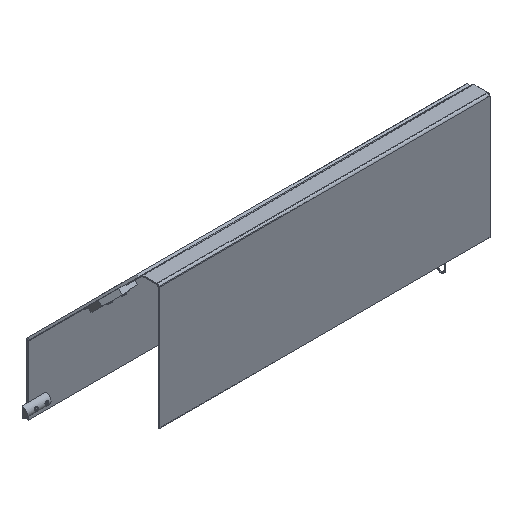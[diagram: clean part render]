
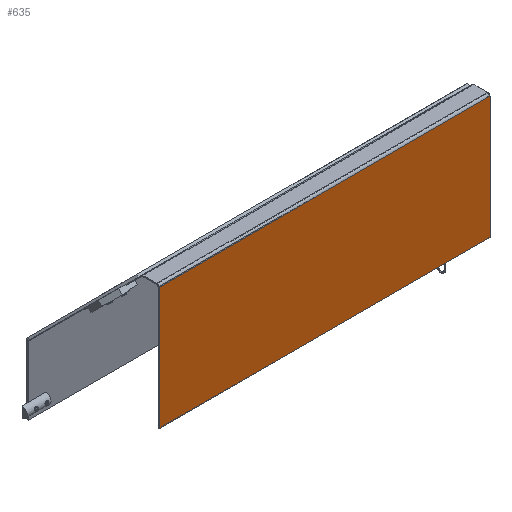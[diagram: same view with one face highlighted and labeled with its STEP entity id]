
A CAD part, isometric view. The second image highlights one B-rep face of the part: STEP entity #635.
In plain terms, the highlighted planar face has unit normal (0, -1, 0).
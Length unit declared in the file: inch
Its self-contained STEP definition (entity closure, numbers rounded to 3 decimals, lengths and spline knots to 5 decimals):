
#202=DIRECTION('',(0.,0.,1.));
#203=VECTOR('',#202,5.8922);
#204=CARTESIAN_POINT('',(7.97,-0.0478,-5.9522));
#205=LINE('',#204,#203);
#218=DIRECTION('',(0.,0.,1.));
#219=VECTOR('',#218,5.8922);
#220=CARTESIAN_POINT('',(-7.97,-0.0478,-5.9522));
#221=LINE('',#220,#219);
#222=DIRECTION('',(-1.,0.,0.));
#223=VECTOR('',#222,15.94);
#224=CARTESIAN_POINT('',(7.97,-0.0478,-5.9522));
#225=LINE('',#224,#223);
#230=DIRECTION('',(-1.,0.,0.));
#231=VECTOR('',#230,15.94);
#232=CARTESIAN_POINT('',(7.97,-0.0478,-0.06));
#233=LINE('',#232,#231);
#262=CARTESIAN_POINT('',(7.97,-0.0478,-5.9522));
#263=CARTESIAN_POINT('',(7.97,-0.0478,-0.06));
#264=VERTEX_POINT('',#262);
#265=VERTEX_POINT('',#263);
#272=CARTESIAN_POINT('',(-7.97,-0.0478,-5.9522));
#273=CARTESIAN_POINT('',(-7.97,-0.0478,-0.06));
#274=VERTEX_POINT('',#272);
#275=VERTEX_POINT('',#273);
#622=CARTESIAN_POINT('',(7.97,-0.0478,-5.9522));
#623=DIRECTION('',(0.,1.,0.));
#624=DIRECTION('',(0.,0.,1.));
#625=AXIS2_PLACEMENT_3D('',#622,#623,#624);
#626=PLANE('',#625);
#627=ORIENTED_EDGE('',*,*,#588,.F.);
#629=ORIENTED_EDGE('',*,*,#628,.T.);
#630=ORIENTED_EDGE('',*,*,#615,.T.);
#632=ORIENTED_EDGE('',*,*,#631,.F.);
#633=EDGE_LOOP('',(#627,#629,#630,#632));
#634=FACE_OUTER_BOUND('',#633,.F.);
#588=EDGE_CURVE('',#264,#265,#205,.T.);
#615=EDGE_CURVE('',#274,#275,#221,.T.);
#628=EDGE_CURVE('',#264,#274,#225,.T.);
#631=EDGE_CURVE('',#265,#275,#233,.T.);
#635=ADVANCED_FACE('',(#634),#626,.F.);
